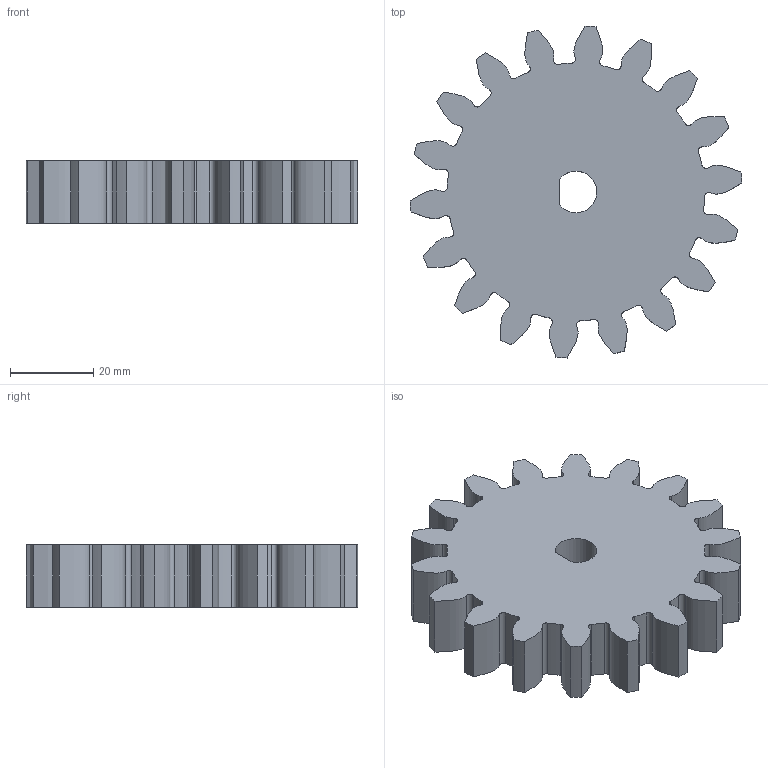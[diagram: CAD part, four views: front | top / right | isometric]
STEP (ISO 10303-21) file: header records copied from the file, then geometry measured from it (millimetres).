
FILE_DESCRIPTION (( 'STEP AP203' ), '1' );
FILE_NAME ('Pignon denture droite m=4 Z=18.STEP', '2025-09-18T11:57:23', ( '' ), ( '' ), 'SwSTEP 2.0', 'SolidWorks 2019', '' );
FILE_SCHEMA (( 'CONFIG_CONTROL_DESIGN' ));
Length unit declared in the file: millimetre
Products named in the file (1): Pignon denture droite m=4 Z=18
Bounding box: 79.89 x 79.89 x 15 mm (x, y, z)
Volume: 58017.7 mm3; surface area: 15278.2 mm2
Topology: 1 solids, 1 shells, 122 faces, 360 edges, 240 vertices
Faces by surface type: cylinder 83, bspline 36, plane 3
Entity records: 4735 total; most frequent: CARTESIAN_POINT 1479, ORIENTED_EDGE 720, DIRECTION 628, EDGE_CURVE 360, AXIS2_PLACEMENT_3D 253, VERTEX_POINT 240, CIRCLE 166, EDGE_LOOP 124
